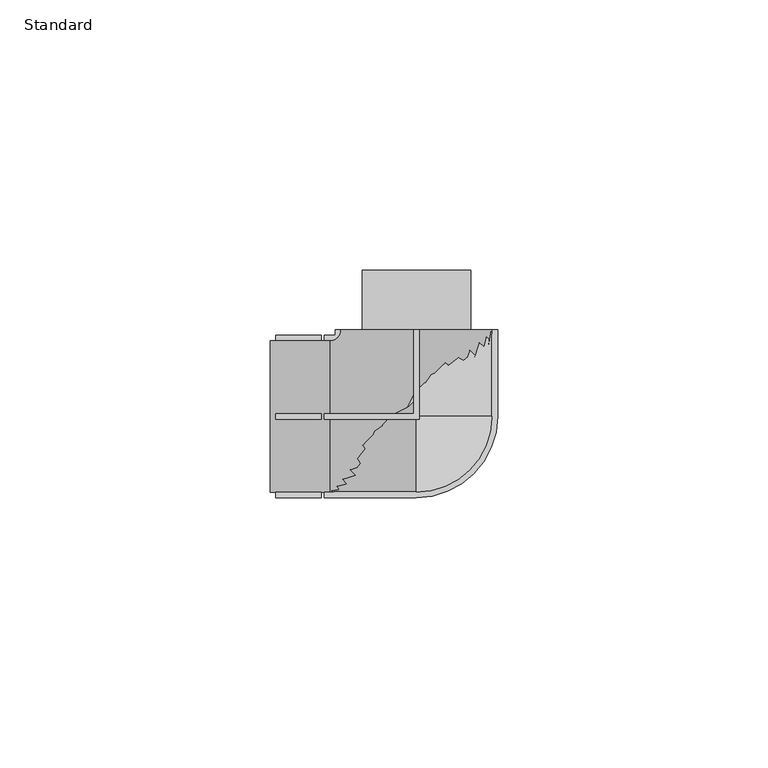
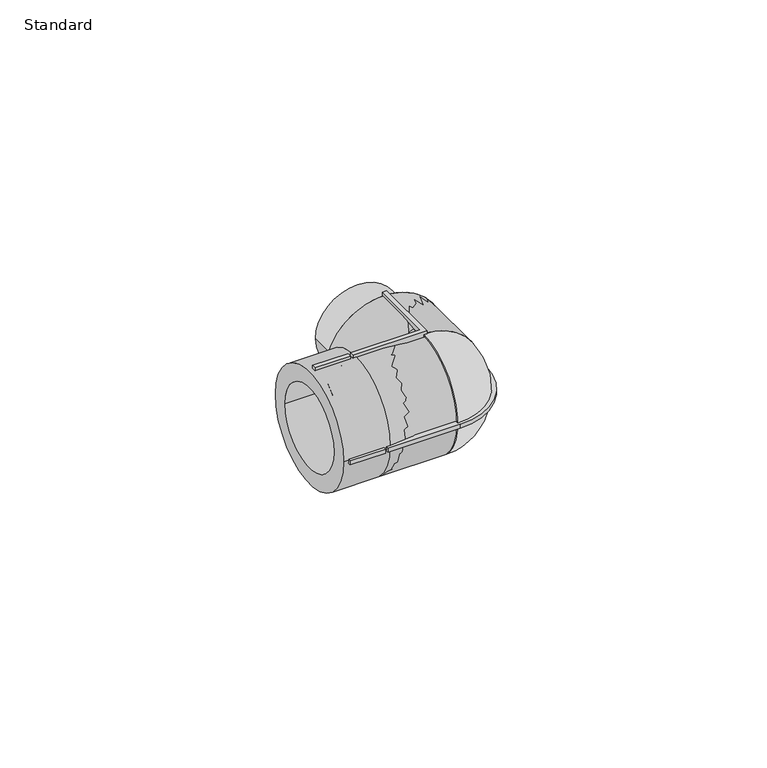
"""IFC4 building model written with IfcOpenShell, lengths in millimetres: pipe fitting geometry, EGB_VASEN_ PPR_Codo 90 hembra macho  : Standard."""

from ifc_helpers import new_model, si_unit, point, frame, origin, origin_2d, place, context, project, spatial, polyline, circle_curve, ellipse_curve, trimmed, segment, composite_curve, outline, extrude, source, transform, mapped, element, save
from ifc_brep_helpers import plane_surface, cylinder_surface, revolved_surface, advanced_brep


def standard_f5aeda7a(model_context):
    return source(origin(), model_context, "Body", "SolidModel", [
        advanced_brep(
        [(0.0, 0.0, -14.0), (0.0, 0.0, 14.0)],
        [
            (0, 1, circle_curve(frame((0.0, 0.0, 0.0), z_axis=(-1.0, 0.0, 0.0), x_axis=(0.0, 1.0, 0.0)), 14.0)),
            (1, 0),
            (1, 0, circle_curve(frame((0.0, 0.0, 0.0), z_axis=(0.0, 1.0, 0.0), x_axis=(-1.0, 0.0, 0.0)), 14.0)),
        ],
        [
            plane_surface(frame((0.0, 0.0, 24.0431585), z_axis=(-1.0, 0.0, 0.0), x_axis=(0.0, -1.0, 0.0))),
            plane_surface(frame((0.0, 0.0, 24.0431585), z_axis=(0.0, 1.0, 0.0), x_axis=(1.0, 0.0, 0.0))),
            revolved_surface(trimmed(ellipse_curve(frame((0.0, 0.0, 0.0), z_axis=(1.0, 0.0, 0.0), x_axis=(0.0, 1.0, 0.0)), 14.0, 14.0), [point((0.0, 0.0, 14.0))], [point((0.0, 0.0, -14.0))], True, "CARTESIAN"), (0.0, 0.0, 24.0431585), (0.0, 0.0, -1.0)),
        ],
        [
            (0, [[1, 2]]),
            (1, [[3, -2]]),
            (2, [[-1, -3]]),
        ],
    ),
        advanced_brep(
        [(-27.0, -14.0, 0.0), (-27.0, 14.0, 0.0), (-27.0, -10.0, 0.0), (-27.0, 10.0, 0.0), (-16.0, -14.0, 0.0), (-16.0, 14.0, 0.0), (-16.0, -10.0, 0.0), (-16.0, 10.0, 0.0), (14.0, 16.0, 0.0), (-14.0, 16.0, 0.0), (-10.0, 16.0, 0.0), (10.0, 16.0, 0.0), (-6.0, 16.0, 0.0), (6.0, 16.0, 0.0), (10.0, 27.0, 0.0), (-10.0, 27.0, 0.0), (6.0, 27.0, 0.0), (-6.0, 27.0, 0.0)],
        [
            (0, 1, circle_curve(frame((-27.0, 0.0, 0.0), z_axis=(-1.0, 0.0, 0.0), x_axis=(0.0, 1.0, 0.0)), 14.0)),
            (1, 0, circle_curve(frame((-27.0, 0.0, 0.0), z_axis=(-1.0, 0.0, 0.0), x_axis=(0.0, 1.0, 0.0)), 14.0)),
            (2, 3, circle_curve(frame((-27.0, 0.0, 0.0), z_axis=(1.0, 0.0, 0.0), x_axis=(0.0, 1.0, 0.0)), 10.0)),
            (3, 2, circle_curve(frame((-27.0, 0.0, 0.0), z_axis=(1.0, 0.0, 0.0), x_axis=(0.0, 1.0, 0.0)), 10.0)),
            (0, 4),
            (4, 5, circle_curve(frame((-16.0, 0.0, 0.0), z_axis=(-1.0, 0.0, 0.0), x_axis=(0.0, 1.0, 0.0)), 14.0)),
            (5, 1),
            (5, 4, circle_curve(frame((-16.0, 0.0, 0.0), z_axis=(-1.0, 0.0, 0.0), x_axis=(0.0, 1.0, 0.0)), 14.0)),
            (2, 6),
            (6, 7, circle_curve(frame((-16.0, 0.0, 0.0), z_axis=(1.0, 0.0, 0.0), x_axis=(0.0, 1.0, 0.0)), 10.0)),
            (7, 3),
            (7, 6, circle_curve(frame((-16.0, 0.0, 0.0), z_axis=(1.0, 0.0, 0.0), x_axis=(0.0, 1.0, 0.0)), 10.0)),
            (8, 9, circle_curve(frame((0.0, 16.0, 0.0), z_axis=(0.0, 1.0, 0.0), x_axis=(-1.0, 0.0, 0.0)), 14.0)),
            (9, 8, circle_curve(frame((0.0, 16.0, 0.0), z_axis=(0.0, 1.0, 0.0), x_axis=(-1.0, 0.0, 0.0)), 14.0)),
            (10, 11, circle_curve(frame((0.0, 16.0, 0.0), z_axis=(0.0, -1.0, 0.0), x_axis=(-1.0, 0.0, 0.0)), 10.0)),
            (11, 10, circle_curve(frame((0.0, 16.0, 0.0), z_axis=(0.0, -1.0, 0.0), x_axis=(-1.0, 0.0, 0.0)), 10.0)),
            (12, 13, circle_curve(frame((0.0, 16.0, 0.0), z_axis=(0.0, 1.0, 0.0), x_axis=(-1.0, 0.0, 0.0)), 6.0)),
            (13, 12, circle_curve(frame((0.0, 16.0, 0.0), z_axis=(0.0, 1.0, 0.0), x_axis=(-1.0, 0.0, 0.0)), 6.0)),
            (9, 5, circle_curve(frame((-16.0, 16.0, 0.0), z_axis=(0.0, 0.0, -1.0), x_axis=(0.0, -1.0, 0.0)), 2.0)),
            (4, 8, circle_curve(frame((-16.0, 16.0, 0.0), z_axis=(0.0, 0.0, 1.0), x_axis=(0.0, -1.0, 0.0)), 30.0)),
            (14, 15, circle_curve(frame((0.0, 27.0, 0.0), z_axis=(0.0, 1.0, 0.0), x_axis=(-1.0, 0.0, 0.0)), 10.0)),
            (15, 14, circle_curve(frame((0.0, 27.0, 0.0), z_axis=(0.0, 1.0, 0.0), x_axis=(-1.0, 0.0, 0.0)), 10.0)),
            (16, 17, circle_curve(frame((0.0, 27.0, 0.0), z_axis=(0.0, -1.0, 0.0), x_axis=(-1.0, 0.0, 0.0)), 6.0)),
            (17, 16, circle_curve(frame((0.0, 27.0, 0.0), z_axis=(0.0, -1.0, 0.0), x_axis=(-1.0, 0.0, 0.0)), 6.0)),
            (16, 13),
            (12, 17),
            (14, 11),
            (10, 15),
        ],
        [
            plane_surface(frame((-27.0, 0.0, 0.0), z_axis=(-1.0, 0.0, 0.0), x_axis=(0.0, 0.0, 1.0))),
            cylinder_surface(frame((-27.0, 0.0, 0.0), z_axis=(-1.0, 0.0, 0.0), x_axis=(0.0, 1.0, 0.0)), 14.0),
            revolved_surface(polyline([(-16.0, 10.0, 0.0), (-27.0, 10.0, 0.0)]), (-27.0, 0.0, 0.0), (1.0, 0.0, 0.0)),
            plane_surface(frame((-16.0, 0.0, 0.0), z_axis=(-1.0, 0.0, 0.0), x_axis=(0.0, 0.0, 1.0))),
            plane_surface(frame((0.0, 16.0, 0.0), z_axis=(0.0, 1.0, 0.0), x_axis=(0.0, 0.0, 1.0))),
            revolved_surface(trimmed(ellipse_curve(frame((-16.0, 0.0, 0.0), z_axis=(-1.0, 0.0, 0.0), x_axis=(0.0, 1.0, 0.0)), 14.0, 14.0), [point((-16.0, -14.0, 0.0))], [point((-16.0, 14.0, 0.0))], True, "CARTESIAN"), (-16.0, 16.0, 0.0), (0.0, 0.0, 1.0)),
            revolved_surface(trimmed(ellipse_curve(frame((-16.0, 0.0, 0.0), z_axis=(-1.0, 0.0, 0.0), x_axis=(0.0, 1.0, 0.0)), 14.0, 14.0), [point((-16.0, 14.0, 0.0))], [point((-16.0, -14.0, 0.0))], True, "CARTESIAN"), (-16.0, 16.0, 0.0), (0.0, 0.0, 1.0)),
            plane_surface(frame((0.0, 27.0, 0.0), z_axis=(0.0, 1.0, 0.0), x_axis=(0.0, 0.0, 1.0))),
            revolved_surface(polyline([(-6.0, 27.0, 0.0), (-6.0, 16.0, 0.0)]), (0.0, 16.0, 0.0), (0.0, 1.0, 0.0)),
            cylinder_surface(frame((0.0, 16.0, 0.0), z_axis=(0.0, -1.0, 0.0), x_axis=(-1.0, 0.0, 0.0)), 10.0),
        ],
        [
            (0, [[1, 2], [3, 4]]),
            (1, [[-1, 5, 6, 7]]),
            (1, [[-2, -7, 8, -5]]),
            (2, [[-3, 9, 10, 11]]),
            (2, [[-4, -11, 12, -9]]),
            (3, [[-10, -12]]),
            (4, [[13, 14], [15, 16]]),
            (4, [[17, 18]]),
            (5, [[-14, 19, -6, 20]]),
            (6, [[-13, -20, -8, -19]]),
            (7, [[21, 22], [23, 24]]),
            (8, [[-23, 25, -17, 26]]),
            (8, [[-24, -26, -18, -25]]),
            (9, [[-21, 27, -15, 28]]),
            (9, [[-22, -28, -16, -27]]),
        ],
    ),
        extrude(outline(composite_curve([segment(polyline([(-17.0, -15.0), (-17.0, -13.0), (0.0, -13.0)]), True, "CONTINUOUS"), segment(trimmed(circle_curve(origin_2d(), 13.0), [point((0.0, -13.0))], [point((13.0, 0.0))], True, "CARTESIAN"), True, "CONTINUOUS"), segment(polyline([(13.0, 0.0), (13.0, 16.0), (15.0, 16.0), (15.0, 0.0)]), True, "CONTINUOUS"), segment(trimmed(circle_curve(origin_2d(), 15.0), [point((15.0, 0.0))], [point((0.0, -15.0))], False, "CARTESIAN"), True, "CONTINUOUS"), segment(polyline([(0.0, -15.0), (-17.0, -15.0)]), True, "CONTINUOUS")], self_intersect=False)), frame((0.0, 0.0, -0.5), z_axis=(0.0, 0.0, 1.0), x_axis=(1.0, 0.0, 0.0)), (0.0, 0.0, 1.0), 1.0),
        extrude(outline(polyline([(-17.0, -0.5), (-17.0, 0.5), (-0.5, 0.5), (-0.5, 16.0), (0.5, 16.0), (0.5, -0.5), (-17.0, -0.5)])), frame((0.0, 0.0, 13.0), z_axis=(0.0, 0.0, 1.0), x_axis=(1.0, 0.0, 0.0)), (0.0, 0.0, 1.0), 2.0),
        extrude(outline(polyline([(-17.0, -0.5), (-17.0, 0.5), (-0.5, 0.5), (-0.5, 16.0), (0.5, 16.0), (0.5, -0.5), (-17.0, -0.5)])), frame((0.0, 0.0, -15.0), z_axis=(0.0, 0.0, 1.0), x_axis=(1.0, 0.0, 0.0)), (0.0, 0.0, 1.0), 2.0),
        extrude(outline(polyline([(-17.0, 13.0), (-17.0, 15.0), (-15.0, 15.0), (-15.0, 16.0), (-13.0, 16.0), (-13.0, 13.0), (-17.0, 13.0)])), frame((0.0, 0.0, -0.5), z_axis=(0.0, 0.0, 1.0), x_axis=(1.0, 0.0, 0.0)), (0.0, 0.0, 1.0), 1.0),
        extrude(outline(composite_curve([segment(trimmed(circle_curve(origin_2d(), 14.0), [point((-14.0, 0.0))], [point((14.0, 0.0))], False, "CARTESIAN"), True, "CONTINUOUS"), segment(trimmed(circle_curve(origin_2d(), 14.0), [point((14.0, 0.0))], [point((-14.0, 0.0))], False, "CARTESIAN"), True, "CONTINUOUS")], self_intersect=False)), frame((-16.0, 0.0, 0.0), z_axis=(1.0, 0.0, 0.0), x_axis=(0.0, 1.0, 0.0)), (0.0, 0.0, 1.0), 16.0),
        extrude(outline(composite_curve([segment(trimmed(circle_curve(origin_2d(), 14.0), [point((0.0, -14.0))], [point((0.0, 14.0))], False, "CARTESIAN"), True, "CONTINUOUS"), segment(trimmed(circle_curve(origin_2d(), 14.0), [point((0.0, 14.0))], [point((0.0, -14.0))], False, "CARTESIAN"), True, "CONTINUOUS")], self_intersect=False)), frame((0.0, 0.0, 0.0), z_axis=(0.0, 1.0, 0.0), x_axis=(0.0, 0.0, 1.0)), (0.0, 0.0, 1.0), 16.0),
        extrude(outline(polyline([(-17.6, 0.5), (-17.6, -0.5), (-26.0, -0.5), (-26.0, 0.5), (-17.6, 0.5)])), frame((0.0, 0.0, 13.0), z_axis=(0.0, 0.0, 1.0), x_axis=(1.0, 0.0, 0.0)), (0.0, 0.0, 1.0), 2.0),
        extrude(outline(polyline([(-17.6, 0.5), (-17.6, -0.5), (-26.0, -0.5), (-26.0, 0.5), (-17.6, 0.5)])), frame((0.0, 0.0, -15.0), z_axis=(0.0, 0.0, 1.0), x_axis=(1.0, 0.0, 0.0)), (0.0, 0.0, 1.0), 2.0),
        extrude(outline(polyline([(-17.6, 15.0), (-17.6, 13.0), (-26.0, 13.0), (-26.0, 15.0), (-17.6, 15.0)])), frame((0.0, 0.0, -0.5), z_axis=(0.0, 0.0, 1.0), x_axis=(1.0, 0.0, 0.0)), (0.0, 0.0, 1.0), 1.0),
        extrude(outline(polyline([(-17.6, -13.0), (-17.6, -15.0), (-26.0, -15.0), (-26.0, -13.0), (-17.6, -13.0)])), frame((0.0, 0.0, -0.5), z_axis=(0.0, 0.0, 1.0), x_axis=(1.0, 0.0, 0.0)), (0.0, 0.0, 1.0), 1.0),
    ])


if __name__ == "__main__":
    model = new_model("IFC4")
    model_context = context("Model", 3, world=origin())
    ifc_project = project(units=[si_unit("LENGTHUNIT", "METRE", prefix="MILLI")], contexts=[model_context])
    site = spatial("IfcSite", under=ifc_project)
    building = spatial("IfcBuilding", under=site)
    placement = place(None, origin())
    standard_shape = standard_f5aeda7a(model_context)
    element("IfcPipeFitting", 1, ObjectType="EGB_VASEN_ PPR_Codo 90 hembra macho  : Standard", at=placement, inside=building, context=model_context, shape_type="MappedRepresentation", body=[
        mapped(standard_shape, transform((0.0, 0.0, 0.0), x_axis=(1.0, 0.0, 0.0), y_axis=(0.0, 1.0, 0.0), z_axis=(0.0, 0.0, 1.0))),
    ])
    save(model, "model.ifc")
